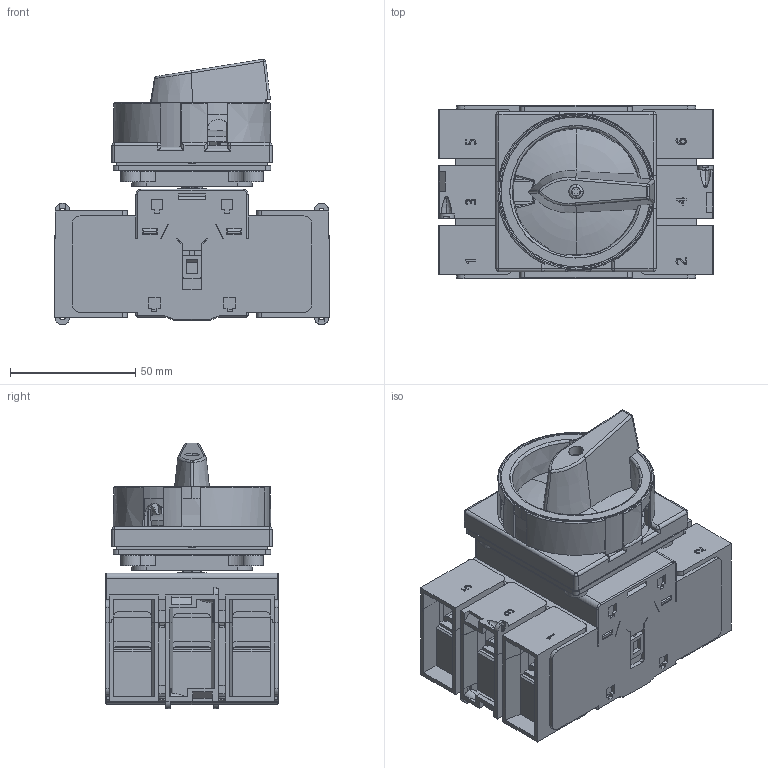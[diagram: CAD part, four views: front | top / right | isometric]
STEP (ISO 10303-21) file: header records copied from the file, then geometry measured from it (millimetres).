
FILE_DESCRIPTION (( 'STEP AP214' ), '1' );
FILE_NAME ('JHAS80-PM125R-RY.STEP', '2021-03-17T06:00:03', ( '' ), ( '' ), 'SwSTEP 2.0', 'SolidWorks 2016', '' );
FILE_SCHEMA (( 'AUTOMOTIVE_DESIGN' ));
Length unit declared in the file: millimetre
Products named in the file (1): JHAS80-PM125R-RY
Bounding box: 109.6 x 69.1 x 106.13 mm (x, y, z)
Volume: 351195.7 mm3; surface area: 138334 mm2
Topology: 3 solids, 41 shells, 3789 faces, 10836 edges, 7053 vertices
Faces by surface type: plane 2403, cylinder 943, cone 188, torus 156, bspline 85, sphere 14
Entity records: 177340 total; most frequent: CARTESIAN_POINT 36628, ORIENTED_EDGE 21630, DIRECTION 19590, EDGE_CURVE 10815, LINE 7544, VECTOR 7544, VERTEX_POINT 7053, AXIS2_PLACEMENT_3D 6023
